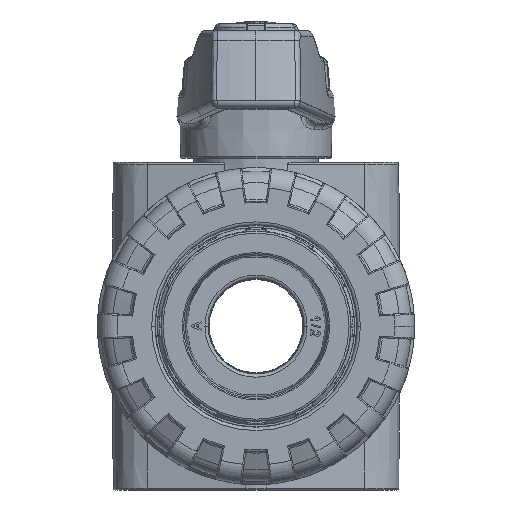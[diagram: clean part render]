
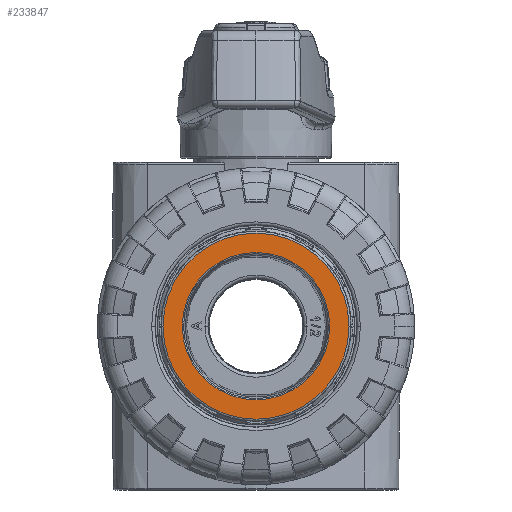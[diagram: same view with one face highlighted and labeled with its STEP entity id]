
A CAD part, left-side view. The second image highlights one B-rep face of the part: STEP entity #233847.
In plain terms, the highlighted planar face has unit normal (-1, 0, 0).
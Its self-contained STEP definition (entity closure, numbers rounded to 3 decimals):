
#226507 = TOROIDAL_SURFACE('',#226508,0.56,0.012);
#226508 = AXIS2_PLACEMENT_3D('',#226509,#226510,#226511);
#226509 = CARTESIAN_POINT('',(-46.536,3.281,
    -40.96));
#226510 = DIRECTION('',(-1.,0.,0.));
#226511 = DIRECTION('',(0.,-1.,0.));
#226532 = VERTEX_POINT('',#226533);
#226533 = CARTESIAN_POINT('',(-46.548,3.84,
    -40.96));
#226548 = TOROIDAL_SURFACE('',#226549,0.56,0.012);
#226549 = AXIS2_PLACEMENT_3D('',#226550,#226551,#226552);
#226550 = CARTESIAN_POINT('',(-46.536,3.281,
    -40.96));
#226551 = DIRECTION('',(-1.,0.,0.));
#226552 = DIRECTION('',(0.,-1.,0.));
#226560 = EDGE_CURVE('',#226561,#226532,#226563,.T.);
#226561 = VERTEX_POINT('',#226562);
#226562 = CARTESIAN_POINT('',(-46.548,2.721,
    -40.96));
#226563 = SURFACE_CURVE('',#226564,(#226569,#226576),.PCURVE_S1.);
#226564 = CIRCLE('',#226565,0.56);
#226565 = AXIS2_PLACEMENT_3D('',#226566,#226567,#226568);
#226566 = CARTESIAN_POINT('',(-46.548,3.281,
    -40.96));
#226567 = DIRECTION('',(-1.,0.,0.));
#226568 = DIRECTION('',(0.,-1.,0.));
#226569 = PCURVE('',#226507,#226570);
#226570 = DEFINITIONAL_REPRESENTATION('',(#226571),#226575);
#226571 = LINE('',#226572,#226573);
#226572 = CARTESIAN_POINT('',(0.,1.571));
#226573 = VECTOR('',#226574,1.);
#226574 = DIRECTION('',(1.,0.));
#226575 = ( GEOMETRIC_REPRESENTATION_CONTEXT(2) 
PARAMETRIC_REPRESENTATION_CONTEXT() REPRESENTATION_CONTEXT('2D SPACE',''
  ) );
#226576 = PCURVE('',#226577,#226582);
#226577 = PLANE('',#226578);
#226578 = AXIS2_PLACEMENT_3D('',#226579,#226580,#226581);
#226579 = CARTESIAN_POINT('',(-46.548,3.281,
    -40.534));
#226580 = DIRECTION('',(-1.,0.,0.));
#226581 = DIRECTION('',(0.,-1.,0.));
#226582 = DEFINITIONAL_REPRESENTATION('',(#226583),#226587);
#226583 = CIRCLE('',#226584,0.56);
#226584 = AXIS2_PLACEMENT_2D('',#226585,#226586);
#226585 = CARTESIAN_POINT('',(0.,-0.426));
#226586 = DIRECTION('',(1.,0.));
#226587 = ( GEOMETRIC_REPRESENTATION_CONTEXT(2) 
PARAMETRIC_REPRESENTATION_CONTEXT() REPRESENTATION_CONTEXT('2D SPACE',''
  ) );
#226614 = EDGE_CURVE('',#226615,#226617,#226619,.T.);
#226615 = VERTEX_POINT('',#226616);
#226616 = CARTESIAN_POINT('',(-46.548,3.724,
    -40.96));
#226617 = VERTEX_POINT('',#226618);
#226618 = CARTESIAN_POINT('',(-46.548,2.837,
    -40.96));
#226619 = SURFACE_CURVE('',#226620,(#226625,#226637),.PCURVE_S1.);
#226620 = CIRCLE('',#226621,0.443);
#226621 = AXIS2_PLACEMENT_3D('',#226622,#226623,#226624);
#226622 = CARTESIAN_POINT('',(-46.548,3.281,
    -40.96));
#226623 = DIRECTION('',(1.,0.,0.));
#226624 = DIRECTION('',(0.,-1.,0.));
#226625 = PCURVE('',#226626,#226631);
#226626 = TOROIDAL_SURFACE('',#226627,0.443,0.008);
#226627 = AXIS2_PLACEMENT_3D('',#226628,#226629,#226630);
#226628 = CARTESIAN_POINT('',(-46.54,3.281,
    -40.96));
#226629 = DIRECTION('',(-1.,0.,0.));
#226630 = DIRECTION('',(0.,-1.,0.));
#226631 = DEFINITIONAL_REPRESENTATION('',(#226632),#226636);
#226632 = LINE('',#226633,#226634);
#226633 = CARTESIAN_POINT('',(6.283,1.571));
#226634 = VECTOR('',#226635,1.);
#226635 = DIRECTION('',(-1.,0.));
#226636 = ( GEOMETRIC_REPRESENTATION_CONTEXT(2) 
PARAMETRIC_REPRESENTATION_CONTEXT() REPRESENTATION_CONTEXT('2D SPACE',''
  ) );
#226637 = PCURVE('',#226577,#226638);
#226638 = DEFINITIONAL_REPRESENTATION('',(#226639),#226647);
#226639 = ( BOUNDED_CURVE() B_SPLINE_CURVE(2,(#226640,#226641,#226642,
    #226643,#226644,#226645,#226646),.UNSPECIFIED.,.T.,.F.) 
B_SPLINE_CURVE_WITH_KNOTS((1,2,2,2,2,1),(-2.094,0.,
    2.094,4.189,6.283,8.378),
.UNSPECIFIED.) CURVE() GEOMETRIC_REPRESENTATION_ITEM() 
RATIONAL_B_SPLINE_CURVE((1.,0.5,1.,0.5,1.,0.5,1.)) REPRESENTATION_ITEM(
  '') );
#226640 = CARTESIAN_POINT('',(0.443,-0.426));
#226641 = CARTESIAN_POINT('',(0.443,-1.193));
#226642 = CARTESIAN_POINT('',(-0.222,-0.809));
#226643 = CARTESIAN_POINT('',(-0.886,-0.426));
#226644 = CARTESIAN_POINT('',(-0.222,-0.042));
#226645 = CARTESIAN_POINT('',(0.443,0.342));
#226646 = CARTESIAN_POINT('',(0.443,-0.426));
#226647 = ( GEOMETRIC_REPRESENTATION_CONTEXT(2) 
PARAMETRIC_REPRESENTATION_CONTEXT() REPRESENTATION_CONTEXT('2D SPACE',''
  ) );
#226666 = TOROIDAL_SURFACE('',#226667,0.443,0.008);
#226667 = AXIS2_PLACEMENT_3D('',#226668,#226669,#226670);
#226668 = CARTESIAN_POINT('',(-46.54,3.281,
    -40.96));
#226669 = DIRECTION('',(-1.,0.,0.));
#226670 = DIRECTION('',(0.,-1.,0.));
#233847 = ADVANCED_FACE('',(#233848,#233873),#226577,.T.);
#233848 = FACE_BOUND('',#233849,.T.);
#233849 = EDGE_LOOP('',(#233850,#233851));
#233850 = ORIENTED_EDGE('',*,*,#226560,.T.);
#233851 = ORIENTED_EDGE('',*,*,#233852,.T.);
#233852 = EDGE_CURVE('',#226532,#226561,#233853,.T.);
#233853 = SURFACE_CURVE('',#233854,(#233859,#233866),.PCURVE_S1.);
#233854 = CIRCLE('',#233855,0.56);
#233855 = AXIS2_PLACEMENT_3D('',#233856,#233857,#233858);
#233856 = CARTESIAN_POINT('',(-46.548,3.281,
    -40.96));
#233857 = DIRECTION('',(-1.,0.,0.));
#233858 = DIRECTION('',(0.,-1.,0.));
#233859 = PCURVE('',#226577,#233860);
#233860 = DEFINITIONAL_REPRESENTATION('',(#233861),#233865);
#233861 = CIRCLE('',#233862,0.56);
#233862 = AXIS2_PLACEMENT_2D('',#233863,#233864);
#233863 = CARTESIAN_POINT('',(0.,-0.426));
#233864 = DIRECTION('',(1.,0.));
#233865 = ( GEOMETRIC_REPRESENTATION_CONTEXT(2) 
PARAMETRIC_REPRESENTATION_CONTEXT() REPRESENTATION_CONTEXT('2D SPACE',''
  ) );
#233866 = PCURVE('',#226548,#233867);
#233867 = DEFINITIONAL_REPRESENTATION('',(#233868),#233872);
#233868 = LINE('',#233869,#233870);
#233869 = CARTESIAN_POINT('',(0.,1.571));
#233870 = VECTOR('',#233871,1.);
#233871 = DIRECTION('',(1.,0.));
#233872 = ( GEOMETRIC_REPRESENTATION_CONTEXT(2) 
PARAMETRIC_REPRESENTATION_CONTEXT() REPRESENTATION_CONTEXT('2D SPACE',''
  ) );
#233873 = FACE_BOUND('',#233874,.T.);
#233874 = EDGE_LOOP('',(#233875,#233901));
#233875 = ORIENTED_EDGE('',*,*,#233876,.T.);
#233876 = EDGE_CURVE('',#226617,#226615,#233877,.T.);
#233877 = SURFACE_CURVE('',#233878,(#233883,#233894),.PCURVE_S1.);
#233878 = CIRCLE('',#233879,0.443);
#233879 = AXIS2_PLACEMENT_3D('',#233880,#233881,#233882);
#233880 = CARTESIAN_POINT('',(-46.548,3.281,
    -40.96));
#233881 = DIRECTION('',(1.,0.,0.));
#233882 = DIRECTION('',(0.,-1.,0.));
#233883 = PCURVE('',#226577,#233884);
#233884 = DEFINITIONAL_REPRESENTATION('',(#233885),#233893);
#233885 = ( BOUNDED_CURVE() B_SPLINE_CURVE(2,(#233886,#233887,#233888,
    #233889,#233890,#233891,#233892),.UNSPECIFIED.,.T.,.F.) 
B_SPLINE_CURVE_WITH_KNOTS((1,2,2,2,2,1),(-2.094,0.,
    2.094,4.189,6.283,8.378),
.UNSPECIFIED.) CURVE() GEOMETRIC_REPRESENTATION_ITEM() 
RATIONAL_B_SPLINE_CURVE((1.,0.5,1.,0.5,1.,0.5,1.)) REPRESENTATION_ITEM(
  '') );
#233886 = CARTESIAN_POINT('',(0.443,-0.426));
#233887 = CARTESIAN_POINT('',(0.443,-1.193));
#233888 = CARTESIAN_POINT('',(-0.222,-0.809));
#233889 = CARTESIAN_POINT('',(-0.886,-0.426));
#233890 = CARTESIAN_POINT('',(-0.222,-0.042));
#233891 = CARTESIAN_POINT('',(0.443,0.342));
#233892 = CARTESIAN_POINT('',(0.443,-0.426));
#233893 = ( GEOMETRIC_REPRESENTATION_CONTEXT(2) 
PARAMETRIC_REPRESENTATION_CONTEXT() REPRESENTATION_CONTEXT('2D SPACE',''
  ) );
#233894 = PCURVE('',#226666,#233895);
#233895 = DEFINITIONAL_REPRESENTATION('',(#233896),#233900);
#233896 = LINE('',#233897,#233898);
#233897 = CARTESIAN_POINT('',(6.283,1.571));
#233898 = VECTOR('',#233899,1.);
#233899 = DIRECTION('',(-1.,0.));
#233900 = ( GEOMETRIC_REPRESENTATION_CONTEXT(2) 
PARAMETRIC_REPRESENTATION_CONTEXT() REPRESENTATION_CONTEXT('2D SPACE',''
  ) );
#233901 = ORIENTED_EDGE('',*,*,#226614,.T.);
